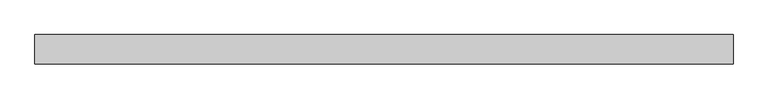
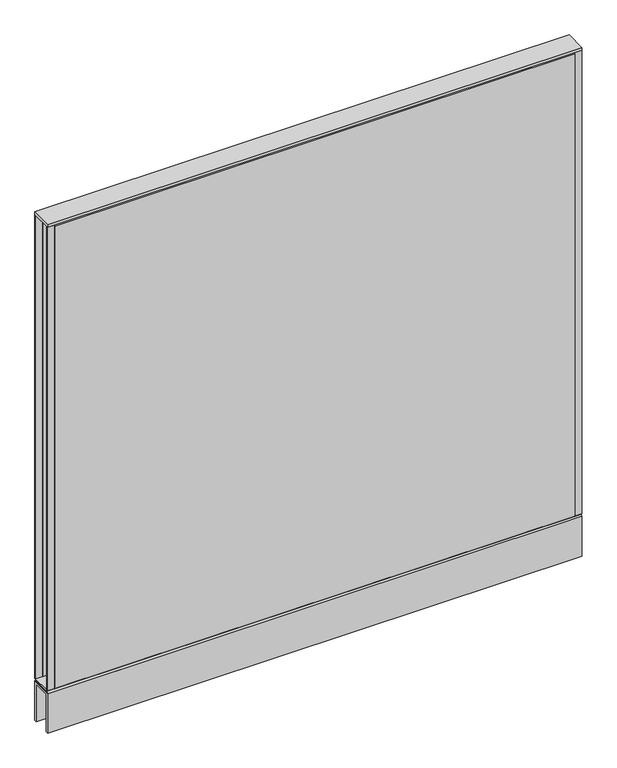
"""IFC4 building model written with IfcOpenShell, lengths in millimetres: furniture geometry, Steelcase - Kick Solutions - Panel - Monolithic - Tackable Acoustical : 48H x 48W."""

import ifcopenshell
import ifcopenshell.guid

model = None  # the IFC model being written
_history = None  # IfcOwnerHistory: only IFC2X3 demands one
_inside = {}  # id of a spatial element -> (the spatial element, [elements in it])
_under = {}  # id of a project, library or spatial element -> (it, [spatial elements below it])
_declared = {}  # id of a project -> (the project, [libraries it declares])
_typed = {}  # id of a type object -> (the type object, [elements of that type])
_made_of = {}  # id of a material, layer set ... -> (it, [elements and type objects made of it])


def new_model(schema):
    """Start an empty IFC model of exactly this schema.

    Asked for "IFC4X3", IfcOpenShell would pick the latest addendum, in which some entities
    have other attributes; the version numbers below select the first issue.
    IFC2X3 requires an IfcOwnerHistory on every rooted entity: one is made here for all.
    """
    global model, _history
    if schema == "IFC4X3":
        model = ifcopenshell.file(schema_version=(4, 3, 0, 0))
    else:
        model = ifcopenshell.file(schema=schema)
    _inside.clear()
    _under.clear()
    _declared.clear()
    _typed.clear()
    _made_of.clear()
    _history = None
    if model.schema == "IFC2X3":
        org = make("IfcOrganization", Name="unknown")
        user = make(
            "IfcPersonAndOrganization",
            ThePerson=make("IfcPerson", FamilyName="unknown"),
            TheOrganization=org,
        )
        app = make(
            "IfcApplication",
            ApplicationDeveloper=org,
            Version="unknown",
            ApplicationFullName="unknown",
            ApplicationIdentifier="unknown",
        )
        _history = make(
            "IfcOwnerHistory",
            OwningUser=user,
            OwningApplication=app,
            ChangeAction="ADDED",
            CreationDate=0,
        )
    return model


def make(cls, **values):
    """One entity of the class cls with the attributes given. An attribute that is None is left unset."""
    return model.create_entity(
        cls, **{name: value for name, value in values.items() if value is not None}
    )


def rooted(cls, **values):
    """An entity with a GlobalId (a new one), such as an element, a storey or a relation."""
    return make(cls, GlobalId=ifcopenshell.guid.new(), OwnerHistory=_history, **values)


def si_unit(unit_type, name, prefix=None):
    """IfcSIUnit, for example si_unit("LENGTHUNIT", "METRE", prefix="MILLI")."""
    return make("IfcSIUnit", UnitType=unit_type, Prefix=prefix, Name=name)


def assignment(units):
    """IfcUnitAssignment: the units of a project."""
    return None if units is None else make("IfcUnitAssignment", Units=units)


def point(xyz):
    """IfcCartesianPoint."""
    return None if xyz is None else make("IfcCartesianPoint", Coordinates=xyz)


def direction(xyz):
    """IfcDirection."""
    return None if xyz is None else make("IfcDirection", DirectionRatios=xyz)


def frame(location, z_axis=None, x_axis=None):
    """IfcAxis2Placement3D, a coordinate frame: its origin and axes. An axis left out is left unset."""
    return make(
        "IfcAxis2Placement3D",
        Location=point(location),
        Axis=direction(z_axis),
        RefDirection=direction(x_axis),
    )


def origin():
    """The frame at (0, 0, 0) with its axes left unset."""
    return frame((0.0, 0.0, 0.0))


def place(relative_to, where):
    """IfcLocalPlacement: puts the frame where relative to a parent placement (None: the world)."""
    return make(
        "IfcLocalPlacement", PlacementRelTo=relative_to, RelativePlacement=where
    )


def context(
    kind, dimensions, precision=None, world=None, true_north=None, identifier=None
):
    """IfcGeometricRepresentationContext, for example the 3D "Model" context."""
    return make(
        "IfcGeometricRepresentationContext",
        ContextIdentifier=identifier,
        ContextType=kind,
        CoordinateSpaceDimension=dimensions,
        Precision=precision,
        WorldCoordinateSystem=world,
        TrueNorth=true_north,
    )


def project(units=None, contexts=None):
    """IfcProject with its units and contexts."""
    return rooted(
        "IfcProject",
        Name="project",
        RepresentationContexts=contexts,
        UnitsInContext=assignment(units),
    )


def spatial(cls, under=None, at=None, **own):
    """A site, building, storey or space (cls), placed at a placement, below another one or the project."""
    s = rooted(cls, ObjectPlacement=at, **own)
    if under is not None:
        _under.setdefault(under.id(), (under, []))[1].append(s)
    return s


def polyline(points):
    """IfcPolyline through the points."""
    return make("IfcPolyline", Points=[point(p) for p in points])


def outline(outer, holes=None, kind="AREA"):
    """IfcArbitraryClosedProfileDef: a profile drawn as a closed curve; with holes, ...WithVoids."""
    if holes is None:
        return make("IfcArbitraryClosedProfileDef", ProfileType=kind, OuterCurve=outer)
    return make(
        "IfcArbitraryProfileDefWithVoids",
        ProfileType=kind,
        OuterCurve=outer,
        InnerCurves=holes,
    )


def extrude(swept, where, along, depth):
    """IfcExtrudedAreaSolid: the profile swept, set in the frame where, extruded along a direction by depth."""
    return make(
        "IfcExtrudedAreaSolid",
        SweptArea=swept,
        Position=where,
        ExtrudedDirection=direction(along),
        Depth=depth,
    )


def shape(context_of_items, identifier, shape_type, items):
    """IfcShapeRepresentation: the items that make up one representation, for example the "Body"."""
    return make(
        "IfcShapeRepresentation",
        ContextOfItems=context_of_items,
        RepresentationIdentifier=identifier,
        RepresentationType=shape_type,
        Items=items,
    )


def source(mapping_origin, context_of_items, identifier, shape_type, items):
    """IfcRepresentationMap: a shape defined once, which mapped items show again and again."""
    return make(
        "IfcRepresentationMap",
        MappingOrigin=mapping_origin,
        MappedRepresentation=shape(context_of_items, identifier, shape_type, items),
    )


def transform(
    local_origin,
    x_axis=None,
    y_axis=None,
    z_axis=None,
    scale=None,
    scale2=None,
    scale3=None,
    uniform=True,
):
    """IfcCartesianTransformationOperator3D, or its non-uniform kind. x_axis, y_axis, z_axis: its Axis1, 2, 3."""
    if uniform:
        return make(
            "IfcCartesianTransformationOperator3D",
            Axis1=direction(x_axis),
            Axis2=direction(y_axis),
            LocalOrigin=point(local_origin),
            Scale=scale,
            Axis3=direction(z_axis),
        )
    return make(
        "IfcCartesianTransformationOperator3DnonUniform",
        Axis1=direction(x_axis),
        Axis2=direction(y_axis),
        LocalOrigin=point(local_origin),
        Scale=scale,
        Axis3=direction(z_axis),
        Scale2=scale2,
        Scale3=scale3,
    )


def mapped(mapping_source, mapping_target):
    """IfcMappedItem: shows the shape of a source again, moved by a transform."""
    return make(
        "IfcMappedItem", MappingSource=mapping_source, MappingTarget=mapping_target
    )


def made_of(thing, what):
    """Note that an element or type object is made of a material, layer set ...; save() writes the relation."""
    if what is not None:
        _made_of.setdefault(what.id(), (what, []))[1].append(thing)
    return thing


def element(
    cls,
    number,
    at=None,
    inside=None,
    cuts=None,
    type_object=None,
    material=None,
    context=None,
    identifier="Body",
    shape_type=None,
    held_by="IfcProductDefinitionShape",
    body=None,
    shapes=None,
    **own,
):
    """One element of the class cls, such as IfcWall. Its Tag is "e" and its number.

    at: its placement. inside: the storey or other place that contains it. cuts: it is an
    opening in that element (IfcRelVoidsElement). A single representation is given by context,
    identifier, shape_type and body (its items); several are given by shapes. held_by: the class
    of the entity that holds the representations. save() writes the other relations.
    """
    e = rooted(cls, Tag="e%d" % number, ObjectPlacement=at, **own)
    if body is not None:
        shapes = [shape(context, identifier, shape_type, body)]
    if shapes is not None:
        e.Representation = make(held_by, Representations=shapes)
    if inside is not None:
        _inside.setdefault(inside.id(), (inside, []))[1].append(e)
    if cuts is not None:
        rooted(
            "IfcRelVoidsElement", RelatingBuildingElement=cuts, RelatedOpeningElement=e
        )
    if type_object is not None:
        _typed.setdefault(type_object.id(), (type_object, []))[1].append(e)
    return made_of(e, material)


def aggregate(whole, parts):
    """IfcRelAggregates: a whole, such as a stair, and the parts it consists of."""
    return rooted("IfcRelAggregates", RelatingObject=whole, RelatedObjects=parts)


def save(model, path):
    """Write the relations noted so far, then the file.

    IfcRelAggregates (storeys below a building ...), IfcRelContainedInSpatialStructure (elements
    in a storey), IfcRelDefinesByType, IfcRelAssociatesMaterial and IfcRelDeclares: one each for
    every whole, place, type object, material and project.
    """
    for whole, parts in _under.values():
        aggregate(whole, parts)
    for where, things in _inside.values():
        rooted(
            "IfcRelContainedInSpatialStructure",
            RelatedElements=things,
            RelatingStructure=where,
        )
    for kind, things in _typed.values():
        rooted("IfcRelDefinesByType", RelatedObjects=things, RelatingType=kind)
    for what, things in _made_of.values():
        rooted("IfcRelAssociatesMaterial", RelatedObjects=things, RelatingMaterial=what)
    for by, libraries in _declared.values():
        rooted("IfcRelDeclares", RelatingContext=by, RelatedDefinitions=libraries)
    model.write(path)


def furniture_e7bc0898(model_context):
    return source(origin(), model_context, "Body", "SweptSolid", [
        extrude(outline(polyline([(0.0, 101.7169049), (-3.1750015, 101.7169049), (-3.1750015, 1219.3169018), (0.0, 1216.2357466), (0.0, 101.7169049)])), frame((15.8749996, 0.0, 0.0), z_axis=(1.0, 0.0, 0.0), x_axis=(0.0, 1.0, 0.0)), (0.0, 0.0, 1.0), 1187.4500008),
        extrude(outline(polyline([(-50.8000015, 101.7169049), (-50.8000015, 1216.2357466), (-47.625, 1219.3169018), (-47.625, 101.7169049), (-50.8000015, 101.7169049)])), frame((15.8749996, 0.0, 0.0), z_axis=(1.0, 0.0, 0.0), x_axis=(0.0, 1.0, 0.0)), (0.0, 0.0, 1.0), 1187.4500008),
        extrude(outline(polyline([(1219.2, -3.1750015), (1203.3250004, -3.1750015), (1203.3250004, 0.0), (1219.2, 0.0), (1219.2, -3.1750015)])), frame((0.0, 0.0, 101.7169049), z_axis=(0.0, 0.0, 1.0), x_axis=(1.0, 0.0, 0.0)), (0.0, 0.0, 1.0), 1117.599997),
        extrude(outline(polyline([(15.8749996, -50.8000015), (0.0, -50.8000015), (0.0, -47.625), (15.8749996, -47.625), (15.8749996, -50.8000015)])), frame((0.0, 0.0, 101.7169049), z_axis=(0.0, 0.0, 1.0), x_axis=(1.0, 0.0, 0.0)), (0.0, 0.0, 1.0), 1117.599997),
        extrude(outline(polyline([(-50.7995075, 101.7169049), (-0.000494, 101.7169049), (-3.0583512, 98.5421458), (-47.7416503, 98.5421458), (-50.7995075, 101.7169049)])), frame((0.0, 0.0, 0.0), z_axis=(1.0, 0.0, 0.0), x_axis=(0.0, 1.0, 0.0)), (0.0, 0.0, 1.0), 1219.2),
        extrude(outline(polyline([(1219.2, 0.0), (1219.2, -50.8000015), (0.0, -50.8000015), (0.0, 0.0), (1219.2, 0.0)])), frame((0.0, 0.0, 1219.3169018), z_axis=(0.0, 0.0, 1.0), x_axis=(1.0, 0.0, 0.0)), (0.0, 0.0, 1.0), 6.35),
        extrude(outline(polyline([(15.8749996, -3.1750015), (0.0, -3.1750015), (0.0, 0.0), (15.8749996, 0.0), (15.8749996, -3.1750015)])), frame((0.0, 0.0, 101.7169049), z_axis=(0.0, 0.0, 1.0), x_axis=(1.0, 0.0, 0.0)), (0.0, 0.0, 1.0), 1117.599997),
        extrude(outline(polyline([(1219.2, -50.8000015), (1203.3250004, -50.8000015), (1203.3250004, -47.625), (1219.2, -47.625), (1219.2, -50.8000015)])), frame((0.0, 0.0, 101.7169049), z_axis=(0.0, 0.0, 1.0), x_axis=(1.0, 0.0, 0.0)), (0.0, 0.0, 1.0), 1117.599997),
        extrude(outline(polyline([(-50.8000015, 95.3668927), (-47.6247484, 98.5421458), (-3.1752531, 98.5421458), (0.0, 95.3668927), (-50.8000015, 95.3668927)])), frame((0.0, 0.0, 0.0), z_axis=(1.0, 0.0, 0.0), x_axis=(0.0, 1.0, 0.0)), (0.0, 0.0, 1.0), 1219.2),
        extrude(outline(polyline([(0.0, 0.0), (-5.08, 0.0), (-5.08, 90.2869018), (-45.7200015, 90.2869018), (-45.7200015, 0.0), (-50.8000015, 0.0), (-50.8000015, 95.3669018), (0.0, 95.3669018), (0.0, 0.0)])), frame((0.0, 0.0, 0.0), z_axis=(1.0, 0.0, 0.0), x_axis=(0.0, 1.0, 0.0)), (0.0, 0.0, 1.0), 1219.2),
    ])


if __name__ == "__main__":
    model = new_model("IFC4")
    model_context = context("Model", 3, world=origin())
    ifc_project = project(units=[si_unit("LENGTHUNIT", "METRE", prefix="MILLI")], contexts=[model_context])
    site = spatial("IfcSite", under=ifc_project)
    building = spatial("IfcBuilding", under=site)
    placement = place(None, origin())
    furniture_shape = furniture_e7bc0898(model_context)
    element("IfcFurniture", 1, ObjectType="Steelcase - Kick Solutions - Panel - Monolithic - Tackable Acoustical : 48H x 48W", at=placement, inside=building, context=model_context, shape_type="MappedRepresentation", body=[
        mapped(furniture_shape, transform((0.0, 0.0, 0.0), x_axis=(1.0, 0.0, 0.0), y_axis=(0.0, 1.0, 0.0), z_axis=(0.0, 0.0, 1.0))),
    ])
    save(model, "model.ifc")
